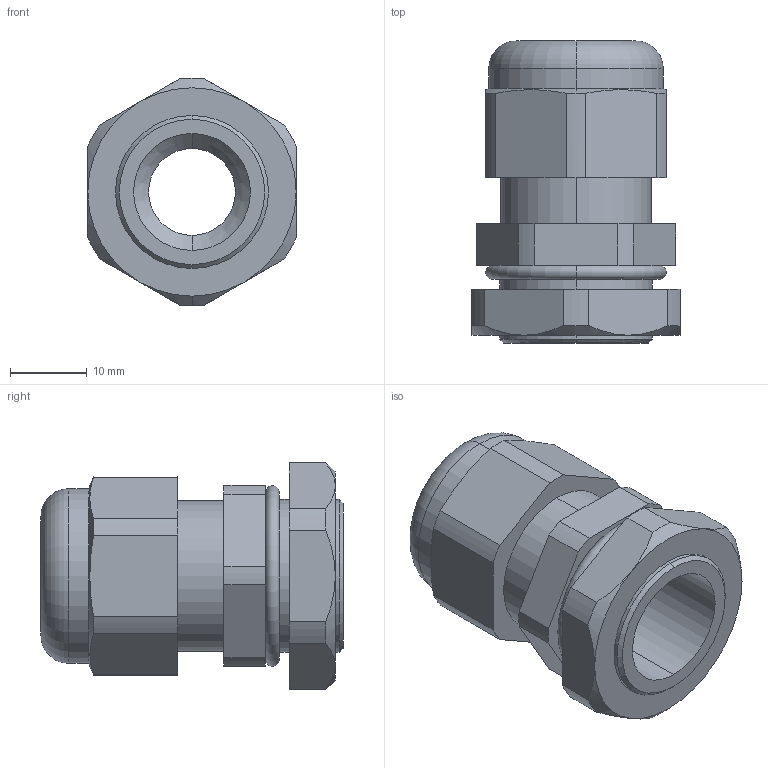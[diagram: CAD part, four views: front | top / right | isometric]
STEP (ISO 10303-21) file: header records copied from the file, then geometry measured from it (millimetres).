
FILE_DESCRIPTION (( 'STEP AP203' ), '1' );
FILE_NAME ('CH-M20.STEP', '2018-02-07T14:46:26', ( '' ), ( '' ), 'SwSTEP 2.0', 'SolidWorks 2012', '' );
FILE_SCHEMA (( 'CONFIG_CONTROL_DESIGN' ));
Length unit declared in the file: millimetre
Products named in the file (1): CH-M20
Bounding box: 27.1 x 39.3 x 29.59 mm (x, y, z)
Volume: 11528.5 mm3; surface area: 6305.6 mm2
Topology: 1 solids, 1 shells, 78 faces, 189 edges, 118 vertices
Faces by surface type: cylinder 34, plane 25, cone 15, torus 4
Entity records: 2470 total; most frequent: CARTESIAN_POINT 524, DIRECTION 415, ORIENTED_EDGE 378, EDGE_CURVE 189, AXIS2_PLACEMENT_3D 165, VERTEX_POINT 118, CIRCLE 86, LINE 85
